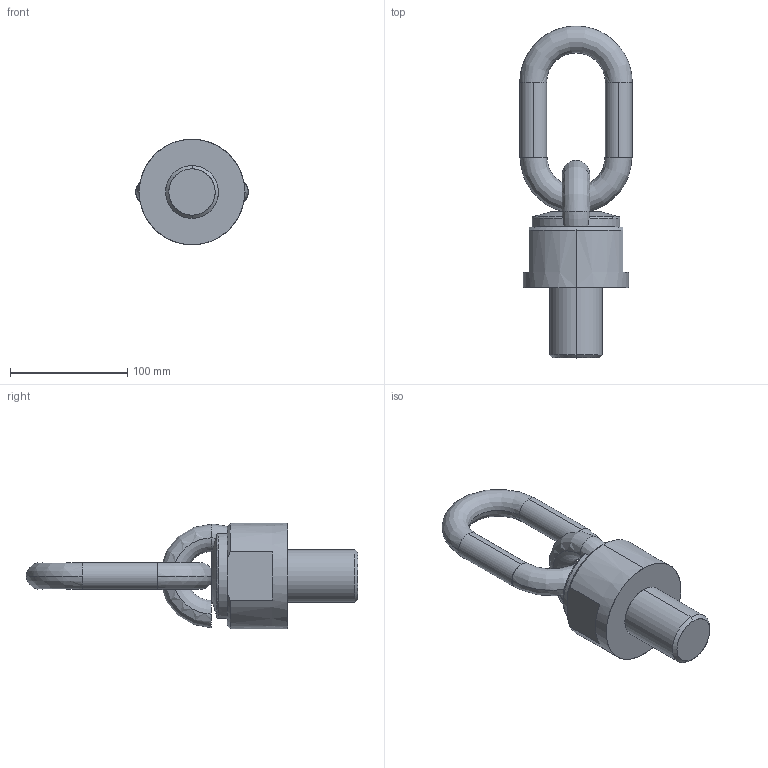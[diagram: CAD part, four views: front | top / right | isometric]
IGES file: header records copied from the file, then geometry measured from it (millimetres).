
Start section: START RECORD GO HERE.
Global section: file name: C800X1254560.igs; native system: DASSAULT SYSTEMES CATIA V5 R20 - www.3ds.com; preprocessor: CATIA Version 5 Release 20 ; author: Utente; organization: NB04-ASUS; date: 20200412.221738; units: millimetre
Bounding box: 96 x 283 x 90 mm (x, y, z)
Surface area: 69242.6 mm2 (no closed solid volume)
Topology: 0 solids, 0 shells, 42 faces, 234 edges, 234 vertices
Faces by surface type: revolution 30, extrusion 12
